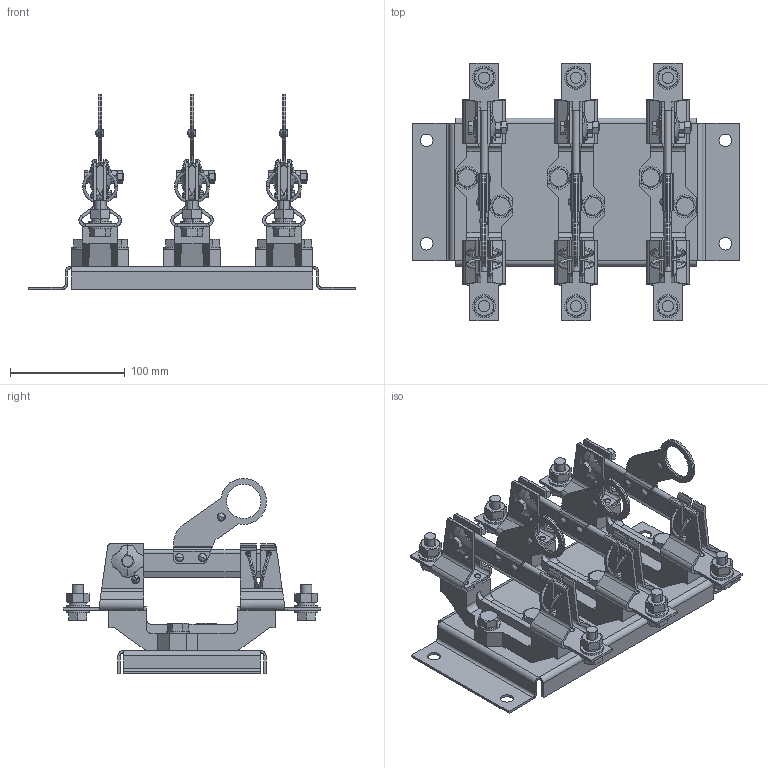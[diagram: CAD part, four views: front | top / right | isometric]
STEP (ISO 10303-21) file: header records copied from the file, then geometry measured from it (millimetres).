
FILE_DESCRIPTION (( 'STEP AP214' ), '1' );
FILE_NAME ('Ðàçúåäèíèòåëü ÐÅ19-37-31160-400À-ÓÕË3-ÊÝÀÇ.STEP', '2023-08-21T08:07:10', ( '' ), ( '' ), 'SwSTEP 2.0', 'SolidWorks 2018', '' );
FILE_SCHEMA (( 'AUTOMOTIVE_DESIGN' ));
Length unit declared in the file: millimetre
Products named in the file (1): Ðàçúåäèíèòåëü ÐÅ19-37-31160-400À-ÓÕË3-ÊÝÀÇ
Bounding box: 285 x 224 x 169.99 mm (x, y, z)
Surface area: 312370.4 mm2 (no closed solid volume)
Topology: 0 solids, 171 shells, 1698 faces, 4760 edges, 3217 vertices
Faces by surface type: plane 921, cylinder 427, torus 148, cone 102, bspline 64, sphere 36
Entity records: 76262 total; most frequent: CARTESIAN_POINT 15002, DIRECTION 8978, ORIENTED_EDGE 8074, EDGE_CURVE 4760, AXIS2_PLACEMENT_3D 3383, VERTEX_POINT 3217, VECTOR 2212, LINE 2212
